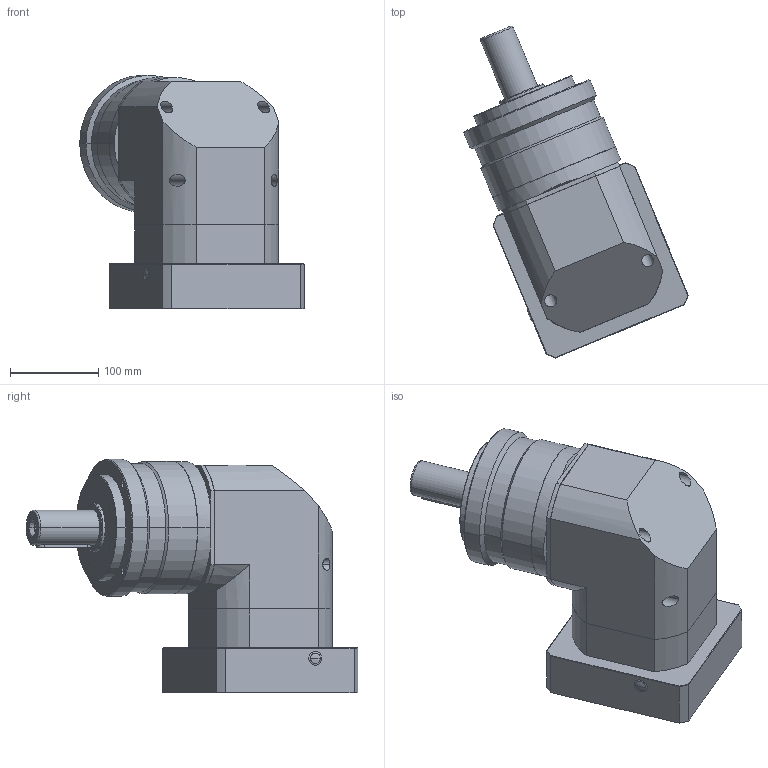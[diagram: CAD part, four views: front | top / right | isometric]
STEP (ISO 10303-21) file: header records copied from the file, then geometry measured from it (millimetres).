
FILE_DESCRIPTION (( 'STEP AP203' ), '1' );
FILE_NAME ('LBER155-(L1)-S2-P2-114200M12.STEP', '2024-11-16T01:38:32', ( '微软用户' ), ( '微软中国' ), 'SwSTEP 2.0', 'SolidWorks 2022', '' );
FILE_SCHEMA (( 'CONFIG_CONTROL_DESIGN' ));
Length unit declared in the file: millimetre
Products named in the file (1): LBER155-(L1)-S2-P2-114200M12
Bounding box: 254.41 x 375.84 x 264.5 mm (x, y, z)
Volume: 7044005.8 mm3; surface area: 459456 mm2
Topology: 13 solids, 13 shells, 487 faces, 1057 edges, 605 vertices
Faces by surface type: plane 200, cylinder 141, cone 126, torus 20
Entity records: 13819 total; most frequent: CARTESIAN_POINT 3258, DIRECTION 2320, ORIENTED_EDGE 2038, EDGE_CURVE 1019, AXIS2_PLACEMENT_3D 931, VERTEX_POINT 605, EDGE_LOOP 554, FACE_OUTER_BOUND 487
